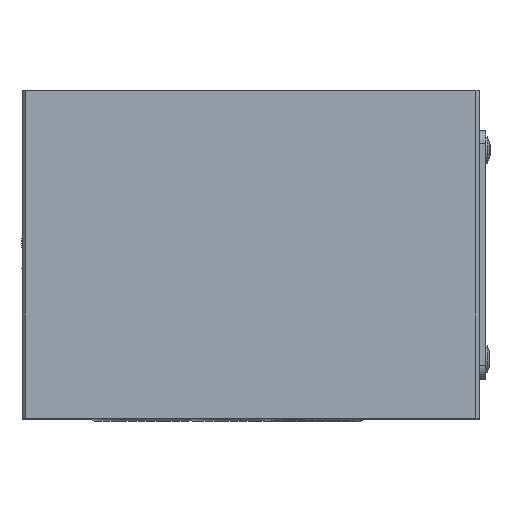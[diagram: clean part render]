
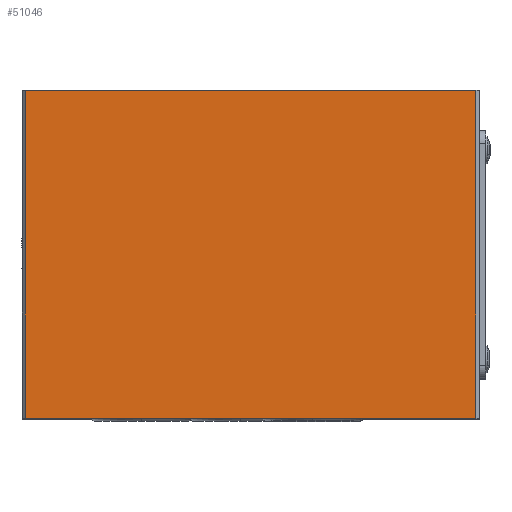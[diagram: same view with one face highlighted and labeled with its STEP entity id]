
A CAD part, top view. The second image highlights one B-rep face of the part: STEP entity #51046.
In plain terms, the highlighted planar face has unit normal (0, 0, 1).
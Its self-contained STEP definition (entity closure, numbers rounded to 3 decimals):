
#3074 = ORIENTED_EDGE ( 'NONE', *, *, #38741, .T. ) ;
#6544 = PLANE ( 'NONE',  #13540 ) ;
#7583 = CARTESIAN_POINT ( 'NONE',  ( 35., -25.1, 55. ) ) ;
#8165 = DIRECTION ( 'NONE',  ( 0., 1., 0. ) ) ;
#9007 = EDGE_CURVE ( 'NONE', #47664, #20576, #49724, .T. ) ;
#12606 = CARTESIAN_POINT ( 'NONE',  ( 34.5, 25.1, 55. ) ) ;
#13540 = AXIS2_PLACEMENT_3D ( 'NONE', #7583, #22036, #56469 ) ;
#15429 = VECTOR ( 'NONE', #8165, 1000. ) ;
#16279 = VERTEX_POINT ( 'NONE', #59477 ) ;
#18067 = VECTOR ( 'NONE', #54707, 1000. ) ;
#18920 = FACE_OUTER_BOUND ( 'NONE', #60769, .T. ) ;
#20576 = VERTEX_POINT ( 'NONE', #53526 ) ;
#21167 = ORIENTED_EDGE ( 'NONE', *, *, #56489, .F. ) ;
#22036 = DIRECTION ( 'NONE',  ( 0., 0., -1. ) ) ;
#25405 = LINE ( 'NONE', #31966, #59591 ) ;
#26244 = EDGE_CURVE ( 'NONE', #16279, #20576, #25405, .T. ) ;
#26363 = VERTEX_POINT ( 'NONE', #12606 ) ;
#31966 = CARTESIAN_POINT ( 'NONE',  ( 35., -25.1, 55. ) ) ;
#32437 = ORIENTED_EDGE ( 'NONE', *, *, #9007, .T. ) ;
#36879 = CARTESIAN_POINT ( 'NONE',  ( 34.5, -25.1, 55. ) ) ;
#38741 = EDGE_CURVE ( 'NONE', #16279, #26363, #56501, .T. ) ;
#40040 = CARTESIAN_POINT ( 'NONE',  ( 35., 25.1, 55. ) ) ;
#44168 = CARTESIAN_POINT ( 'NONE',  ( -34.5, 25.1, 55. ) ) ;
#45605 = CARTESIAN_POINT ( 'NONE',  ( -34.5, -25.1, 55. ) ) ;
#46799 = DIRECTION ( 'NONE',  ( -1., 0., 0. ) ) ;
#47432 = VECTOR ( 'NONE', #51134, 1000. ) ;
#47664 = VERTEX_POINT ( 'NONE', #44168 ) ;
#49724 = LINE ( 'NONE', #45605, #47432 ) ;
#51046 = ADVANCED_FACE ( 'NONE', ( #18920 ), #6544, .F. ) ;
#51134 = DIRECTION ( 'NONE',  ( 0., -1., 0. ) ) ;
#53526 = CARTESIAN_POINT ( 'NONE',  ( -34.5, -25.1, 55. ) ) ;
#54707 = DIRECTION ( 'NONE',  ( 1., 0., 0. ) ) ;
#55343 = LINE ( 'NONE', #40040, #18067 ) ;
#56469 = DIRECTION ( 'NONE',  ( -1., 0., 0. ) ) ;
#56489 = EDGE_CURVE ( 'NONE', #47664, #26363, #55343, .T. ) ;
#56501 = LINE ( 'NONE', #36879, #15429 ) ;
#58294 = ORIENTED_EDGE ( 'NONE', *, *, #26244, .F. ) ;
#59477 = CARTESIAN_POINT ( 'NONE',  ( 34.5, -25.1, 55. ) ) ;
#59591 = VECTOR ( 'NONE', #46799, 1000. ) ;
#60769 = EDGE_LOOP ( 'NONE', ( #58294, #3074, #21167, #32437 ) ) ;
